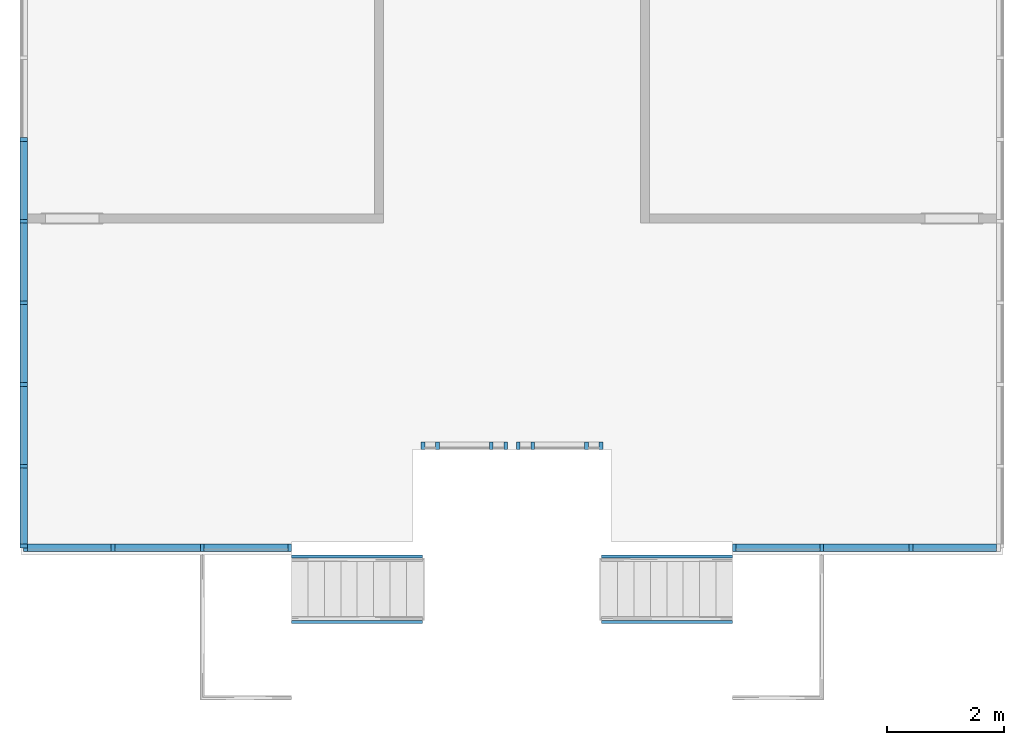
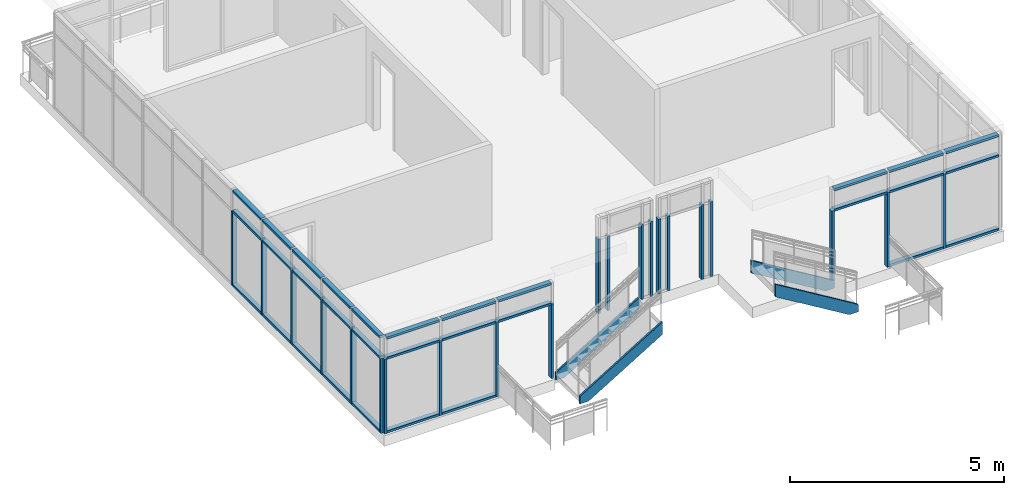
# One storey, part 1 of 11: 56 members, 7 elements without a shape of their own.
"""IFC2X3 building model written with IfcOpenShell, lengths in feet."""

from ifc_helpers import new_model, entity, si_unit, converted_unit, derived_unit, direction, frame, origin, origin_2d_with_axis, place, context, subcontext, project, spatial, polyline, rectangle, outline, extrude, source, transform, mapped, material, type_object, type_shapes, element, aggregate, save


model = new_model("IFC2X3")

# Units and contexts
model_context = context("Model", 3, precision=0.0001, world=origin(), true_north=direction((6.12303176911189e-17, 1.0)))
body_context = subcontext(model_context, "Body", "Model", "MODEL_VIEW")
ifc_project = project(units=[converted_unit("LENGTHUNIT", "FOOT", entity("IfcRatioMeasure", 0.3048), si_unit("LENGTHUNIT", "METRE"), dimensions=[1, 0, 0, 0, 0, 0, 0]), converted_unit("AREAUNIT", "SQUARE FOOT", entity("IfcRatioMeasure", 0.09290304), si_unit("AREAUNIT", "SQUARE_METRE"), dimensions=[2, 0, 0, 0, 0, 0, 0]), converted_unit("VOLUMEUNIT", "CUBIC FOOT", entity("IfcRatioMeasure", 0.028316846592), si_unit("VOLUMEUNIT", "CUBIC_METRE"), dimensions=[3, 0, 0, 0, 0, 0, 0]), converted_unit("PLANEANGLEUNIT", "DEGREE", entity("IfcRatioMeasure", 0.0174532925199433), si_unit("PLANEANGLEUNIT", "RADIAN"), dimensions=[0, 0, 0, 0, 0, 0, 0]), si_unit("MASSUNIT", "GRAM", prefix="KILO"), derived_unit("MASSDENSITYUNIT", [(si_unit("MASSUNIT", "GRAM", prefix="KILO"), 1), (si_unit("LENGTHUNIT", "METRE"), -3)]), si_unit("TIMEUNIT", "SECOND"), si_unit("FREQUENCYUNIT", "HERTZ"), si_unit("THERMODYNAMICTEMPERATUREUNIT", "DEGREE_CELSIUS"), derived_unit("THERMALTRANSMITTANCEUNIT", [(si_unit("MASSUNIT", "GRAM", prefix="KILO"), 1), (si_unit("THERMODYNAMICTEMPERATUREUNIT", "KELVIN"), -1), (si_unit("TIMEUNIT", "SECOND"), -3)]), derived_unit("VOLUMETRICFLOWRATEUNIT", [(si_unit("LENGTHUNIT", "METRE"), 3), (si_unit("TIMEUNIT", "SECOND"), -1)]), si_unit("ELECTRICCURRENTUNIT", "AMPERE"), si_unit("ELECTRICVOLTAGEUNIT", "VOLT"), si_unit("POWERUNIT", "WATT"), si_unit("FORCEUNIT", "NEWTON"), si_unit("ILLUMINANCEUNIT", "LUX"), si_unit("LUMINOUSFLUXUNIT", "LUMEN"), si_unit("LUMINOUSINTENSITYUNIT", "CANDELA"), derived_unit("USERDEFINED", [(si_unit("MASSUNIT", "GRAM", prefix="KILO"), -1), (si_unit("LENGTHUNIT", "METRE"), -2), (si_unit("TIMEUNIT", "SECOND"), 3), (si_unit("LUMINOUSFLUXUNIT", "LUMEN"), 1)]), derived_unit("LINEARVELOCITYUNIT", [(si_unit("LENGTHUNIT", "METRE"), 1), (si_unit("TIMEUNIT", "SECOND"), -1)]), si_unit("PRESSUREUNIT", "PASCAL"), derived_unit("USERDEFINED", [(si_unit("LENGTHUNIT", "METRE"), -2), (si_unit("MASSUNIT", "GRAM", prefix="KILO"), 1), (si_unit("TIMEUNIT", "SECOND"), -2)])], contexts=[model_context])

# Site, building, storey
site_placement = place(None, origin())
site = spatial("IfcSite", under=ifc_project, at=site_placement, Name="Default", CompositionType="ELEMENT")
building_placement = place(site_placement, origin())
building = spatial("IfcBuilding", under=site, at=building_placement, CompositionType="ELEMENT")
storey_placement = place(building_placement, frame((0.0, 0.0, 50.0)))
storey = spatial("IfcBuildingStorey", under=building, at=storey_placement, Name="L 9", CompositionType="ELEMENT", Elevation=49.9999999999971)

# Stair, members
stair_1_placement = place(storey_placement, origin())
stair_1 = element("IfcStair", 1, at=stair_1_placement, inside=storey, Name="Assembled Stair:Stair", ObjectType="Assembled Stair:7\" max riser 11\" tread", ShapeType="NOTDEFINED")
member_type_1 = type_object("IfcMemberType", Name="Stringer:Stringer - 2\" Width", PredefinedType="STRINGER")
member_1_placement = place(stair_1_placement, origin())
member_1 = element("IfcMember", 2, at=member_1_placement, type_object=member_type_1, Name="Assembled Stair:Stair:206083 Stringer 1", ObjectType="Assembled Stair:7\" max riser 11\" tread", context=body_context, shape_type="SweptSolid", body=[
    extrude(outline(polyline([(-3.29811864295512, -0.519028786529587), (5.27689530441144, -0.519028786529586), (4.67083469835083, 0.480971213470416), (-2.99079942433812, 0.480971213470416), (-3.65881193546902, 0.0761151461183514), (-3.29811864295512, -0.519028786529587)])), frame((-43.2356053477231, -7.50364126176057, 1.96146201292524), z_axis=(0.0, 1.0, 0.0), x_axis=(0.855197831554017, 0.0, 0.518301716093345)), (0.0, 0.0, 1.0), 0.166666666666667),
])
member_2_placement = place(stair_1_placement, origin())
member_2 = element("IfcMember", 3, at=member_2_placement, type_object=member_type_1, Name="Assembled Stair:Stair:206083 Stringer 2", ObjectType="Assembled Stair:7\" max riser 11\" tread", context=body_context, shape_type="SweptSolid", body=[
    extrude(outline(polyline([(-3.29811864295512, -0.51902878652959), (5.27689530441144, -0.519028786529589), (4.67083469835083, 0.480971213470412), (-2.99079942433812, 0.480971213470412), (-3.65881193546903, 0.0761151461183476), (-3.29811864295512, -0.51902878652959)])), frame((-43.2356053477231, -11.1703079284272, 1.96146201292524), z_axis=(0.0, 1.0, 0.0), x_axis=(0.855197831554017, 0.0, 0.518301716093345)), (0.0, 0.0, 1.0), 0.166666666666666),
])
aggregate(stair_1, [member_1, member_2])

stair_2_placement = place(storey_placement, origin())
stair_2 = element("IfcStair", 4, at=stair_2_placement, inside=storey, Name="Assembled Stair:Stair", ObjectType="Assembled Stair:7\" max riser 11\" tread", ShapeType="NOTDEFINED")
member_3_placement = place(stair_2_placement, origin())
member_3 = element("IfcMember", 5, at=member_3_placement, type_object=member_type_1, Name="Assembled Stair:Stair:206209 Stringer 1", ObjectType="Assembled Stair:7\" max riser 11\" tread", context=body_context, shape_type="SweptSolid", body=[
    extrude(outline(polyline([(-3.08955742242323, -1.96146201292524), (-2.30843697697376, -1.96146201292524), (4.2437759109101, 2.00957610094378), (4.24377591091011, 3.17889618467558), (-3.08955742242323, -1.26554825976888), (-3.08955742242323, -1.96146201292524)])), frame((-24.7480535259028, -11.1703079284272, 1.96146201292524), z_axis=(0.0, 1.0, 0.0), x_axis=(-1.0, 0.0, 0.0)), (0.0, 0.0, 1.0), 0.166666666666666),
])
member_4_placement = place(stair_2_placement, origin())
member_4 = element("IfcMember", 6, at=member_4_placement, type_object=member_type_1, Name="Assembled Stair:Stair:206209 Stringer 2", ObjectType="Assembled Stair:7\" max riser 11\" tread", context=body_context, shape_type="SweptSolid", body=[
    extrude(outline(polyline([(-3.08955742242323, -1.96146201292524), (-2.30843697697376, -1.96146201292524), (4.2437759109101, 2.00957610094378), (4.24377591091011, 3.17889618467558), (-3.08955742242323, -1.26554825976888), (-3.08955742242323, -1.96146201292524)])), frame((-24.7480535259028, -7.50364126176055, 1.96146201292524), z_axis=(0.0, 1.0, 0.0), x_axis=(-1.0, 0.0, 0.0)), (0.0, 0.0, 1.0), 0.166666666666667),
])
aggregate(stair_2, [member_3, member_4])

# Curtain wall, members
curtain_wall_type = type_object("IfcCurtainWallType", Name="Curtain Wall:Storefront 2", PredefinedType="NOTDEFINED")
curtain_wall_1_placement = place(storey_placement, frame((0.0, 0.0, -50.0)))
curtain_wall_1 = element("IfcCurtainWall", 7, at=curtain_wall_1_placement, inside=storey, type_object=curtain_wall_type, Name="Curtain Wall:Storefront 2", ObjectType="Curtain Wall:Storefront 2")
ifc_material = material(Name="Aluminum")
member_type_2 = type_object("IfcMemberType", Name="2.5\" x 5\" rectangular", PredefinedType="MEMBER")
shared_shape_1 = source(origin(), body_context, "Body", "SweptSolid", [
    extrude(rectangle(XDim=0.416666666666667, YDim=0.208333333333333, at=origin_2d_with_axis()), frame((-0.104166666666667, 0.0, -4.6875), z_axis=(0.0, 0.0, 1.0), x_axis=(0.0, -1.0, 0.0)), (0.0, 0.0, 1.0), 4.6875),
])
type_shapes(member_type_2, [shared_shape_1])
member_5_placement = place(storey_placement, frame((-61.1168294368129, -6.94114126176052, 9.0), z_axis=(-1.0, 0.0, 0.0), x_axis=(0.0, 0.0, 1.0)))
member_5 = element("IfcMember", 8, at=member_5_placement, type_object=member_type_2, material=ifc_material, Name="Rectangular Mullion:2.5\" x 5\" rectangular", ObjectType="2.5\" x 5\" rectangular", context=body_context, shape_type="MappedRepresentation", body=[
    mapped(shared_shape_1, transform((0.0, 0.0, 0.0), scale=1.0)),
])
member_6_placement = place(storey_placement, frame((-51.2209961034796, -6.94114126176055, 9.0), z_axis=(-1.0, 0.0, 0.0), x_axis=(0.0, 0.0, 1.0)))
member_6 = element("IfcMember", 9, at=member_6_placement, type_object=member_type_2, material=ifc_material, Name="Rectangular Mullion:2.5\" x 5\" rectangular", ObjectType="2.5\" x 5\" rectangular", context=body_context, shape_type="MappedRepresentation", body=[
    mapped(shared_shape_1, transform((0.0, 0.0, 0.0), scale=1.0)),
])

curtain_wall_2_placement = place(storey_placement, frame((0.0, 0.0, -50.0)))
curtain_wall_2 = element("IfcCurtainWall", 10, at=curtain_wall_2_placement, inside=storey, type_object=curtain_wall_type, Name="Curtain Wall:Storefront 2", ObjectType="Curtain Wall:Storefront 2")
member_7_placement = place(storey_placement, frame((-21.4501627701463, -6.94114126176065, 9.0), z_axis=(-1.0, 0.0, 0.0), x_axis=(0.0, 0.0, 1.0)))
member_7 = element("IfcMember", 11, at=member_7_placement, type_object=member_type_2, material=ifc_material, Name="Rectangular Mullion:2.5\" x 5\" rectangular", ObjectType="2.5\" x 5\" rectangular", context=body_context, shape_type="MappedRepresentation", body=[
    mapped(shared_shape_1, transform((0.0, 0.0, 0.0), scale=1.0)),
])
member_8_placement = place(storey_placement, frame((-11.5543294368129, -6.94114126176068, 9.0), z_axis=(-1.0, 0.0, 0.0), x_axis=(0.0, 0.0, 1.0)))
member_8 = element("IfcMember", 12, at=member_8_placement, type_object=member_type_2, material=ifc_material, Name="Rectangular Mullion:2.5\" x 5\" rectangular", ObjectType="2.5\" x 5\" rectangular", context=body_context, shape_type="MappedRepresentation", body=[
    mapped(shared_shape_1, transform((0.0, 0.0, 0.0), scale=1.0)),
])

# Member
member_type_3 = type_object("IfcMemberType", Name="2.5\" x 5\" rectangular", PredefinedType="MEMBER")
shared_shape_2 = source(origin(), body_context, "Body", "SweptSolid", [
    extrude(rectangle(XDim=0.416666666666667, YDim=0.208333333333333, at=origin_2d_with_axis()), frame((-0.104166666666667, 0.0, -4.6875), z_axis=(0.0, 0.0, 1.0), x_axis=(0.0, -1.0, 0.0)), (0.0, 0.0, 1.0), 4.6875),
])
type_shapes(member_type_3, [shared_shape_2])
member_9_placement = place(storey_placement, frame((-56.429329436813, -6.94114126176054, 0.0), z_axis=(1.0, 0.0, 0.0), x_axis=(0.0, 0.0, -1.0)))
member_9 = element("IfcMember", 13, at=member_9_placement, type_object=member_type_3, material=ifc_material, Name="Rectangular Mullion:2.5\" x 5\" rectangular", ObjectType="2.5\" x 5\" rectangular", context=body_context, shape_type="MappedRepresentation", body=[
    mapped(shared_shape_2, transform((0.0, 0.0, 0.0), scale=1.0)),
])

member_10_placement = place(storey_placement, frame((-6.86682943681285, -6.94114126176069, 0.0), z_axis=(1.0, 0.0, 0.0), x_axis=(0.0, 0.0, -1.0)))
member_10 = element("IfcMember", 14, at=member_10_placement, type_object=member_type_3, material=ifc_material, Name="Rectangular Mullion:2.5\" x 5\" rectangular", ObjectType="2.5\" x 5\" rectangular", context=body_context, shape_type="MappedRepresentation", body=[
    mapped(shared_shape_2, transform((0.0, 0.0, 0.0), scale=1.0)),
])

member_type_4 = type_object("IfcMemberType", Name="2.5\" x 5\" rectangular", PredefinedType="MEMBER")
shared_shape_3 = source(origin(), body_context, "Body", "SweptSolid", [
    extrude(rectangle(XDim=0.416666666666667, YDim=0.208333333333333, at=origin_2d_with_axis()), frame((0.0, 0.0, -4.6875), z_axis=(0.0, 0.0, 1.0), x_axis=(0.0, -1.0, 0.0)), (0.0, 0.0, 1.0), 4.6875),
])
type_shapes(member_type_4, [shared_shape_3])
member_11_placement = place(storey_placement, frame((-51.2209961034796, -6.94114126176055, 7.0), z_axis=(-1.0, 0.0, 0.0), x_axis=(0.0, 0.0, 1.0)))
member_11 = element("IfcMember", 15, at=member_11_placement, type_object=member_type_4, material=ifc_material, Name="Rectangular Mullion:2.5\" x 5\" rectangular", ObjectType="2.5\" x 5\" rectangular", context=body_context, shape_type="MappedRepresentation", body=[
    mapped(shared_shape_3, transform((0.0, 0.0, 0.0), scale=1.0)),
])

member_12_placement = place(storey_placement, frame((-61.1168294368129, -6.94114126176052, 7.0), z_axis=(-1.0, 0.0, 0.0), x_axis=(0.0, 0.0, 1.0)))
member_12 = element("IfcMember", 16, at=member_12_placement, type_object=member_type_4, material=ifc_material, Name="Rectangular Mullion:2.5\" x 5\" rectangular", ObjectType="2.5\" x 5\" rectangular", context=body_context, shape_type="MappedRepresentation", body=[
    mapped(shared_shape_3, transform((0.0, 0.0, 0.0), scale=1.0)),
])

member_13_placement = place(storey_placement, frame((-11.5543294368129, -6.94114126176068, 7.0), z_axis=(-1.0, 0.0, 0.0), x_axis=(0.0, 0.0, 1.0)))
member_13 = element("IfcMember", 17, at=member_13_placement, type_object=member_type_4, material=ifc_material, Name="Rectangular Mullion:2.5\" x 5\" rectangular", ObjectType="2.5\" x 5\" rectangular", context=body_context, shape_type="MappedRepresentation", body=[
    mapped(shared_shape_3, transform((0.0, 0.0, 0.0), scale=1.0)),
])

member_14_placement = place(storey_placement, frame((-21.4501627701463, -6.94114126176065, 7.0), z_axis=(-1.0, 0.0, 0.0), x_axis=(0.0, 0.0, 1.0)))
member_14 = element("IfcMember", 18, at=member_14_placement, type_object=member_type_4, material=ifc_material, Name="Rectangular Mullion:2.5\" x 5\" rectangular", ObjectType="2.5\" x 5\" rectangular", context=body_context, shape_type="MappedRepresentation", body=[
    mapped(shared_shape_3, transform((0.0, 0.0, 0.0), scale=1.0)),
])

member_type_5 = type_object("IfcMemberType", Name="2.5\" x 5\" rectangular", PredefinedType="MEMBER")
shared_shape_4 = source(origin(), body_context, "Body", "SweptSolid", [
    extrude(rectangle(XDim=0.416666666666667, YDim=0.208333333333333, at=origin_2d_with_axis()), frame((-0.104166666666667, 0.0, -4.79166666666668), z_axis=(0.0, 0.0, 1.0), x_axis=(0.0, -1.0, 0.0)), (0.0, 0.0, 1.0), 4.79166666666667),
])
type_shapes(member_type_5, [shared_shape_4])
member_15_placement = place(storey_placement, frame((-56.2209961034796, -6.94114126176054, 9.0), z_axis=(-1.0, 0.0, 0.0), x_axis=(0.0, 0.0, 1.0)))
member_15 = element("IfcMember", 19, at=member_15_placement, type_object=member_type_5, material=ifc_material, Name="Rectangular Mullion:2.5\" x 5\" rectangular", ObjectType="2.5\" x 5\" rectangular", context=body_context, shape_type="MappedRepresentation", body=[
    mapped(shared_shape_4, transform((0.0, 0.0, 0.0), scale=1.0)),
])

member_16_placement = place(storey_placement, frame((-16.554329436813, -6.94114126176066, 9.0), z_axis=(-1.0, 0.0, 0.0), x_axis=(0.0, 0.0, 1.0)))
member_16 = element("IfcMember", 20, at=member_16_placement, type_object=member_type_5, material=ifc_material, Name="Rectangular Mullion:2.5\" x 5\" rectangular", ObjectType="2.5\" x 5\" rectangular", context=body_context, shape_type="MappedRepresentation", body=[
    mapped(shared_shape_4, transform((0.0, 0.0, 0.0), scale=1.0)),
])

member_type_6 = type_object("IfcMemberType", Name="2.5\" x 5\" rectangular", PredefinedType="MEMBER")
shared_shape_5 = source(origin(), body_context, "Body", "SweptSolid", [
    extrude(rectangle(XDim=0.416666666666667, YDim=0.208333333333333, at=origin_2d_with_axis()), frame((-0.104166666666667, 0.0, -7.0), z_axis=(0.0, 0.0, 1.0), x_axis=(0.0, -1.0, 0.0)), (0.0, 0.0, 1.0), 7.0),
])
type_shapes(member_type_6, [shared_shape_5])
member_17_placement = place(storey_placement, frame((-61.3251627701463, -6.94114126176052, 0.0), z_axis=(0.0, 0.0, -1.0), x_axis=(-1.0, 0.0, 0.0)))
member_17 = element("IfcMember", 21, at=member_17_placement, type_object=member_type_6, material=ifc_material, Name="Rectangular Mullion:2.5\" x 5\" rectangular", ObjectType="2.5\" x 5\" rectangular", context=body_context, shape_type="MappedRepresentation", body=[
    mapped(shared_shape_5, transform((0.0, 0.0, 0.0), scale=1.0)),
])

# Curtain wall, member
curtain_wall_3_placement = place(storey_placement, frame((0.0, 0.0, -50.0)))
curtain_wall_3 = element("IfcCurtainWall", 22, at=curtain_wall_3_placement, inside=storey, type_object=curtain_wall_type, Name="Curtain Wall:Storefront 2", ObjectType="Curtain Wall:Storefront 2")
member_18_placement = place(storey_placement, frame((-39.0751627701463, -1.23280792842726, 0.0), z_axis=(0.0, 0.0, -1.0), x_axis=(-1.0, 0.0, 0.0)))
member_18 = element("IfcMember", 23, at=member_18_placement, type_object=member_type_6, material=ifc_material, Name="Rectangular Mullion:2.5\" x 5\" rectangular", ObjectType="2.5\" x 5\" rectangular", context=body_context, shape_type="MappedRepresentation", body=[
    mapped(shared_shape_5, transform((0.0, 0.0, 0.0), scale=1.0)),
])

curtain_wall_4_placement = place(storey_placement, frame((0.0, 0.0, -50.0)))
curtain_wall_4 = element("IfcCurtainWall", 24, at=curtain_wall_4_placement, inside=storey, type_object=curtain_wall_type, Name="Curtain Wall:Storefront 2", ObjectType="Curtain Wall:Storefront 2")
member_19_placement = place(storey_placement, frame((-33.7418294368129, -1.23280792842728, 0.0), z_axis=(0.0, 0.0, -1.0), x_axis=(-1.0, 0.0, 0.0)))
member_19 = element("IfcMember", 25, at=member_19_placement, type_object=member_type_6, material=ifc_material, Name="Rectangular Mullion:2.5\" x 5\" rectangular", ObjectType="2.5\" x 5\" rectangular", context=body_context, shape_type="MappedRepresentation", body=[
    mapped(shared_shape_5, transform((0.0, 0.0, 0.0), scale=1.0)),
])

# Member
member_type_7 = type_object("IfcMemberType", Name="2.5\" x 5\" rectangular", PredefinedType="MEMBER")
shared_shape_6 = source(origin(), body_context, "Body", "SweptSolid", [
    extrude(rectangle(XDim=0.416666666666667, YDim=0.208333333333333, at=origin_2d_with_axis()), frame((-0.104166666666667, 0.0, -7.0), z_axis=(0.0, 0.0, 1.0), x_axis=(0.0, -1.0, 0.0)), (0.0, 0.0, 1.0), 7.0),
])
type_shapes(member_type_7, [shared_shape_6])
member_20_placement = place(storey_placement, frame((-34.2418294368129, -1.23280792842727, 7.0)))
member_20 = element("IfcMember", 26, at=member_20_placement, type_object=member_type_7, material=ifc_material, Name="Rectangular Mullion:2.5\" x 5\" rectangular", ObjectType="2.5\" x 5\" rectangular", context=body_context, shape_type="MappedRepresentation", body=[
    mapped(shared_shape_6, transform((0.0, 0.0, 0.0), scale=1.0)),
])

member_21_placement = place(storey_placement, frame((-28.9084961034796, -1.23280792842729, 7.0)))
member_21 = element("IfcMember", 27, at=member_21_placement, type_object=member_type_7, material=ifc_material, Name="Rectangular Mullion:2.5\" x 5\" rectangular", ObjectType="2.5\" x 5\" rectangular", context=body_context, shape_type="MappedRepresentation", body=[
    mapped(shared_shape_6, transform((0.0, 0.0, 0.0), scale=1.0)),
])

# Curtain wall, member
curtain_wall_5_placement = place(storey_placement, frame((0.0, 0.0, -50.0)))
curtain_wall_5 = element("IfcCurtainWall", 28, at=curtain_wall_5_placement, inside=storey, type_object=curtain_wall_type, Name="Curtain Wall:Storefront 2", ObjectType="Curtain Wall:Storefront 2")
member_22_placement = place(storey_placement, frame((-61.3251627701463, -6.94114126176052, 7.0), z_axis=(0.0, 0.0, 1.0), x_axis=(0.0, -1.0, 0.0)))
member_22 = element("IfcMember", 29, at=member_22_placement, type_object=member_type_7, material=ifc_material, Name="Rectangular Mullion:2.5\" x 5\" rectangular", ObjectType="2.5\" x 5\" rectangular", context=body_context, shape_type="MappedRepresentation", body=[
    mapped(shared_shape_6, transform((0.0, 0.0, 0.0), scale=1.0)),
])

# Member
member_type_8 = type_object("IfcMemberType", Name="2.5\" x 5\" rectangular", PredefinedType="MEMBER")
shared_shape_7 = source(origin(), body_context, "Body", "SweptSolid", [
    extrude(rectangle(XDim=0.416666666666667, YDim=0.208333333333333, at=origin_2d_with_axis()), frame((0.0, 0.0, -4.79166666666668), z_axis=(0.0, 0.0, 1.0), x_axis=(0.0, -1.0, 0.0)), (0.0, 0.0, 1.0), 4.79166666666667),
])
type_shapes(member_type_8, [shared_shape_7])
member_23_placement = place(storey_placement, frame((-56.2209961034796, -6.94114126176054, 7.0), z_axis=(-1.0, 0.0, 0.0), x_axis=(0.0, 0.0, 1.0)))
member_23 = element("IfcMember", 30, at=member_23_placement, type_object=member_type_8, material=ifc_material, Name="Rectangular Mullion:2.5\" x 5\" rectangular", ObjectType="2.5\" x 5\" rectangular", context=body_context, shape_type="MappedRepresentation", body=[
    mapped(shared_shape_7, transform((0.0, 0.0, 0.0), scale=1.0)),
])

member_24_placement = place(storey_placement, frame((-16.554329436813, -6.94114126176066, 7.0), z_axis=(-1.0, 0.0, 0.0), x_axis=(0.0, 0.0, 1.0)))
member_24 = element("IfcMember", 31, at=member_24_placement, type_object=member_type_8, material=ifc_material, Name="Rectangular Mullion:2.5\" x 5\" rectangular", ObjectType="2.5\" x 5\" rectangular", context=body_context, shape_type="MappedRepresentation", body=[
    mapped(shared_shape_7, transform((0.0, 0.0, 0.0), scale=1.0)),
])

member_type_9 = type_object("IfcMemberType", Name="2.5\" x 5\" rectangular", PredefinedType="MEMBER")
shared_shape_8 = source(origin(), body_context, "Body", "SweptSolid", [
    extrude(rectangle(XDim=0.416666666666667, YDim=0.208333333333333, at=origin_2d_with_axis()), frame((0.0, 0.0, -7.0), z_axis=(0.0, 0.0, 1.0), x_axis=(0.0, -1.0, 0.0)), (0.0, 0.0, 1.0), 7.0),
])
type_shapes(member_type_9, [shared_shape_8])
member_25_placement = place(storey_placement, frame((-51.3251627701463, -6.94114126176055, 0.0), z_axis=(0.0, 0.0, -1.0), x_axis=(-1.0, 0.0, 0.0)))
member_25 = element("IfcMember", 32, at=member_25_placement, type_object=member_type_9, material=ifc_material, Name="Rectangular Mullion:2.5\" x 5\" rectangular", ObjectType="2.5\" x 5\" rectangular", context=body_context, shape_type="MappedRepresentation", body=[
    mapped(shared_shape_8, transform((0.0, 0.0, 0.0), scale=1.0)),
])

member_26_placement = place(storey_placement, frame((-56.3251627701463, -6.94114126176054, 0.0), z_axis=(0.0, 0.0, -1.0), x_axis=(-1.0, 0.0, 0.0)))
member_26 = element("IfcMember", 33, at=member_26_placement, type_object=member_type_9, material=ifc_material, Name="Rectangular Mullion:2.5\" x 5\" rectangular", ObjectType="2.5\" x 5\" rectangular", context=body_context, shape_type="MappedRepresentation", body=[
    mapped(shared_shape_8, transform((0.0, 0.0, 0.0), scale=1.0)),
])

member_27_placement = place(storey_placement, frame((-11.6584961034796, -6.94114126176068, 0.0), z_axis=(0.0, 0.0, -1.0), x_axis=(-1.0, 0.0, 0.0)))
member_27 = element("IfcMember", 34, at=member_27_placement, type_object=member_type_9, material=ifc_material, Name="Rectangular Mullion:2.5\" x 5\" rectangular", ObjectType="2.5\" x 5\" rectangular", context=body_context, shape_type="MappedRepresentation", body=[
    mapped(shared_shape_8, transform((0.0, 0.0, 0.0), scale=1.0)),
])

member_28_placement = place(storey_placement, frame((-16.6584961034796, -6.94114126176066, 0.0), z_axis=(0.0, 0.0, -1.0), x_axis=(-1.0, 0.0, 0.0)))
member_28 = element("IfcMember", 35, at=member_28_placement, type_object=member_type_9, material=ifc_material, Name="Rectangular Mullion:2.5\" x 5\" rectangular", ObjectType="2.5\" x 5\" rectangular", context=body_context, shape_type="MappedRepresentation", body=[
    mapped(shared_shape_8, transform((0.0, 0.0, 0.0), scale=1.0)),
])

member_29_placement = place(storey_placement, frame((-35.1584961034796, -1.23280792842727, 0.0), z_axis=(0.0, 0.0, -1.0), x_axis=(-1.0, 0.0, 0.0)))
member_29 = element("IfcMember", 36, at=member_29_placement, type_object=member_type_9, material=ifc_material, Name="Rectangular Mullion:2.5\" x 5\" rectangular", ObjectType="2.5\" x 5\" rectangular", context=body_context, shape_type="MappedRepresentation", body=[
    mapped(shared_shape_8, transform((0.0, 0.0, 0.0), scale=1.0)),
])

member_30_placement = place(storey_placement, frame((-38.1584961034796, -1.23280792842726, 0.0), z_axis=(0.0, 0.0, -1.0), x_axis=(-1.0, 0.0, 0.0)))
member_30 = element("IfcMember", 37, at=member_30_placement, type_object=member_type_9, material=ifc_material, Name="Rectangular Mullion:2.5\" x 5\" rectangular", ObjectType="2.5\" x 5\" rectangular", context=body_context, shape_type="MappedRepresentation", body=[
    mapped(shared_shape_8, transform((0.0, 0.0, 0.0), scale=1.0)),
])

aggregate(curtain_wall_3, [member_18, member_20, member_29, member_30])

member_31_placement = place(storey_placement, frame((-29.8251627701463, -1.23280792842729, 0.0), z_axis=(0.0, 0.0, -1.0), x_axis=(-1.0, 0.0, 0.0)))
member_31 = element("IfcMember", 38, at=member_31_placement, type_object=member_type_9, material=ifc_material, Name="Rectangular Mullion:2.5\" x 5\" rectangular", ObjectType="2.5\" x 5\" rectangular", context=body_context, shape_type="MappedRepresentation", body=[
    mapped(shared_shape_8, transform((0.0, 0.0, 0.0), scale=1.0)),
])

member_32_placement = place(storey_placement, frame((-32.8251627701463, -1.23280792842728, 0.0), z_axis=(0.0, 0.0, -1.0), x_axis=(-1.0, 0.0, 0.0)))
member_32 = element("IfcMember", 39, at=member_32_placement, type_object=member_type_9, material=ifc_material, Name="Rectangular Mullion:2.5\" x 5\" rectangular", ObjectType="2.5\" x 5\" rectangular", context=body_context, shape_type="MappedRepresentation", body=[
    mapped(shared_shape_8, transform((0.0, 0.0, 0.0), scale=1.0)),
])

aggregate(curtain_wall_4, [member_19, member_21, member_31, member_32])

member_33_placement = place(storey_placement, frame((-61.3251627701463, -2.36917156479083, 0.0), z_axis=(0.0, 0.0, -1.0), x_axis=(0.0, 1.0, 0.0)))
member_33 = element("IfcMember", 40, at=member_33_placement, type_object=member_type_9, material=ifc_material, Name="Rectangular Mullion:2.5\" x 5\" rectangular", ObjectType="2.5\" x 5\" rectangular", context=body_context, shape_type="MappedRepresentation", body=[
    mapped(shared_shape_8, transform((0.0, 0.0, 0.0), scale=1.0)),
])

member_34_placement = place(storey_placement, frame((-61.3251627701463, 2.20279813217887, 0.0), z_axis=(0.0, 0.0, -1.0), x_axis=(0.0, 1.0, 0.0)))
member_34 = element("IfcMember", 41, at=member_34_placement, type_object=member_type_9, material=ifc_material, Name="Rectangular Mullion:2.5\" x 5\" rectangular", ObjectType="2.5\" x 5\" rectangular", context=body_context, shape_type="MappedRepresentation", body=[
    mapped(shared_shape_8, transform((0.0, 0.0, 0.0), scale=1.0)),
])

member_35_placement = place(storey_placement, frame((-61.3251627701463, 6.77476782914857, 0.0), z_axis=(0.0, 0.0, -1.0), x_axis=(0.0, 1.0, 0.0)))
member_35 = element("IfcMember", 42, at=member_35_placement, type_object=member_type_9, material=ifc_material, Name="Rectangular Mullion:2.5\" x 5\" rectangular", ObjectType="2.5\" x 5\" rectangular", context=body_context, shape_type="MappedRepresentation", body=[
    mapped(shared_shape_8, transform((0.0, 0.0, 0.0), scale=1.0)),
])

member_36_placement = place(storey_placement, frame((-61.3251627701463, 11.3467375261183, 0.0), z_axis=(0.0, 0.0, -1.0), x_axis=(0.0, 1.0, 0.0)))
member_36 = element("IfcMember", 43, at=member_36_placement, type_object=member_type_9, material=ifc_material, Name="Rectangular Mullion:2.5\" x 5\" rectangular", ObjectType="2.5\" x 5\" rectangular", context=body_context, shape_type="MappedRepresentation", body=[
    mapped(shared_shape_8, transform((0.0, 0.0, 0.0), scale=1.0)),
])

member_37_placement = place(storey_placement, frame((-61.3251627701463, 15.918707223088, 0.0), z_axis=(0.0, 0.0, -1.0), x_axis=(0.0, 1.0, 0.0)))
member_37 = element("IfcMember", 44, at=member_37_placement, type_object=member_type_9, material=ifc_material, Name="Rectangular Mullion:2.5\" x 5\" rectangular", ObjectType="2.5\" x 5\" rectangular", context=body_context, shape_type="MappedRepresentation", body=[
    mapped(shared_shape_8, transform((0.0, 0.0, 0.0), scale=1.0)),
])

member_type_10 = type_object("IfcMemberType", Name="2.5\" x 5\" rectangular", PredefinedType="MEMBER")
shared_shape_9 = source(origin(), body_context, "Body", "SweptSolid", [
    extrude(rectangle(XDim=0.416666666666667, YDim=0.208333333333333, at=origin_2d_with_axis()), frame((-0.104166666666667, 0.0, -7.0), z_axis=(0.0, 0.0, 1.0), x_axis=(0.0, -1.0, 0.0)), (0.0, 0.0, 1.0), 7.0),
])
type_shapes(member_type_10, [shared_shape_9])
member_38_placement = place(storey_placement, frame((-46.3251627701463, -6.94114126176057, 7.0)))
member_38 = element("IfcMember", 45, at=member_38_placement, type_object=member_type_10, material=ifc_material, Name="Rectangular Mullion:2.5\" x 5\" rectangular", ObjectType="2.5\" x 5\" rectangular", context=body_context, shape_type="MappedRepresentation", body=[
    mapped(shared_shape_9, transform((0.0, 0.0, 0.0), scale=1.0)),
])

member_type_11 = type_object("IfcMemberType", Name="2.5\" x 5\" rectangular", PredefinedType="MEMBER")
shared_shape_10 = source(origin(), body_context, "Body", "SweptSolid", [
    extrude(rectangle(XDim=0.416666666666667, YDim=0.208333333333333, at=origin_2d_with_axis()), frame((-0.104166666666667, 0.0, -4.79166666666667), z_axis=(0.0, 0.0, 1.0), x_axis=(0.0, -1.0, 0.0)), (0.0, 0.0, 1.0), 4.79166666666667),
])
type_shapes(member_type_11, [shared_shape_10])
member_39_placement = place(storey_placement, frame((-51.4293294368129, -6.94114126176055, 0.0), z_axis=(1.0, 0.0, 0.0), x_axis=(0.0, 0.0, -1.0)))
member_39 = element("IfcMember", 46, at=member_39_placement, type_object=member_type_11, material=ifc_material, Name="Rectangular Mullion:2.5\" x 5\" rectangular", ObjectType="2.5\" x 5\" rectangular", context=body_context, shape_type="MappedRepresentation", body=[
    mapped(shared_shape_10, transform((0.0, 0.0, 0.0), scale=1.0)),
])

aggregate(curtain_wall_1, [member_5, member_6, member_15, member_9, member_17, member_38, member_11, member_23, member_12, member_25, member_26, member_39])

member_40_placement = place(storey_placement, frame((-11.7626627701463, -6.94114126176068, 0.0), z_axis=(1.0, 0.0, 0.0), x_axis=(0.0, 0.0, -1.0)))
member_40 = element("IfcMember", 47, at=member_40_placement, type_object=member_type_11, material=ifc_material, Name="Rectangular Mullion:2.5\" x 5\" rectangular", ObjectType="2.5\" x 5\" rectangular", context=body_context, shape_type="MappedRepresentation", body=[
    mapped(shared_shape_10, transform((0.0, 0.0, 0.0), scale=1.0)),
])

member_type_12 = type_object("IfcMemberType", Name="2.5\" x 5\" rectangular", PredefinedType="MEMBER")
shared_shape_11 = source(origin(), body_context, "Body", "SweptSolid", [
    extrude(rectangle(XDim=0.416666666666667, YDim=0.208333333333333, at=origin_2d_with_axis()), frame((-0.104166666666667, 0.0, -7.0), z_axis=(0.0, 0.0, 1.0), x_axis=(0.0, -1.0, 0.0)), (0.0, 0.0, 1.0), 7.0),
])
type_shapes(member_type_12, [shared_shape_11])
member_41_placement = place(storey_placement, frame((-21.6584961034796, -6.94114126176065, 0.0), z_axis=(0.0, 0.0, -1.0), x_axis=(-1.0, 0.0, 0.0)))
member_41 = element("IfcMember", 48, at=member_41_placement, type_object=member_type_12, material=ifc_material, Name="Rectangular Mullion:2.5\" x 5\" rectangular", ObjectType="2.5\" x 5\" rectangular", context=body_context, shape_type="MappedRepresentation", body=[
    mapped(shared_shape_11, transform((0.0, 0.0, 0.0), scale=1.0)),
])

aggregate(curtain_wall_2, [member_7, member_8, member_16, member_10, member_41, member_13, member_24, member_14, member_27, member_28, member_40])

member_type_13 = type_object("IfcMemberType", Name="2.5\" x 5\" rectangular", PredefinedType="MEMBER")
shared_shape_12 = source(origin(), body_context, "Body", "SweptSolid", [
    extrude(rectangle(XDim=0.416666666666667, YDim=0.208333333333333, at=origin_2d_with_axis()), frame((-0.104166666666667, 0.0, -4.25946969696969), z_axis=(0.0, 0.0, 1.0), x_axis=(0.0, -1.0, 0.0)), (0.0, 0.0, 1.0), 4.2594696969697),
])
type_shapes(member_type_13, [shared_shape_12])
member_42_placement = place(storey_placement, frame((-61.3251627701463, -2.47333823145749, 9.0), z_axis=(0.0, 1.0, 0.0), x_axis=(0.0, 0.0, 1.0)))
member_42 = element("IfcMember", 49, at=member_42_placement, type_object=member_type_13, material=ifc_material, Name="Rectangular Mullion:2.5\" x 5\" rectangular", ObjectType="2.5\" x 5\" rectangular", context=body_context, shape_type="MappedRepresentation", body=[
    mapped(shared_shape_12, transform((0.0, 0.0, 0.0), scale=1.0)),
])

member_type_14 = type_object("IfcMemberType", Name="2.5\" x 5\" rectangular", PredefinedType="MEMBER")
shared_shape_13 = source(origin(), body_context, "Body", "SweptSolid", [
    extrude(rectangle(XDim=0.416666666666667, YDim=0.208333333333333, at=origin_2d_with_axis()), frame((-0.104166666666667, 0.0, -4.36363636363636), z_axis=(0.0, 0.0, 1.0), x_axis=(0.0, -1.0, 0.0)), (0.0, 0.0, 1.0), 4.36363636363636),
])
type_shapes(member_type_14, [shared_shape_13])
member_43_placement = place(storey_placement, frame((-61.3251627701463, 2.0986314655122, 9.0), z_axis=(0.0, 1.0, 0.0), x_axis=(0.0, 0.0, 1.0)))
member_43 = element("IfcMember", 50, at=member_43_placement, type_object=member_type_14, material=ifc_material, Name="Rectangular Mullion:2.5\" x 5\" rectangular", ObjectType="2.5\" x 5\" rectangular", context=body_context, shape_type="MappedRepresentation", body=[
    mapped(shared_shape_13, transform((0.0, 0.0, 0.0), scale=1.0)),
])

member_44_placement = place(storey_placement, frame((-61.3251627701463, 6.6706011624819, 9.0), z_axis=(0.0, 1.0, 0.0), x_axis=(0.0, 0.0, 1.0)))
member_44 = element("IfcMember", 51, at=member_44_placement, type_object=member_type_14, material=ifc_material, Name="Rectangular Mullion:2.5\" x 5\" rectangular", ObjectType="2.5\" x 5\" rectangular", context=body_context, shape_type="MappedRepresentation", body=[
    mapped(shared_shape_13, transform((0.0, 0.0, 0.0), scale=1.0)),
])

member_45_placement = place(storey_placement, frame((-61.3251627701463, 11.2425708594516, 9.0), z_axis=(0.0, 1.0, 0.0), x_axis=(0.0, 0.0, 1.0)))
member_45 = element("IfcMember", 52, at=member_45_placement, type_object=member_type_14, material=ifc_material, Name="Rectangular Mullion:2.5\" x 5\" rectangular", ObjectType="2.5\" x 5\" rectangular", context=body_context, shape_type="MappedRepresentation", body=[
    mapped(shared_shape_13, transform((0.0, 0.0, 0.0), scale=1.0)),
])

member_46_placement = place(storey_placement, frame((-61.3251627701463, 15.8145405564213, 9.0), z_axis=(0.0, 1.0, 0.0), x_axis=(0.0, 0.0, 1.0)))
member_46 = element("IfcMember", 53, at=member_46_placement, type_object=member_type_14, material=ifc_material, Name="Rectangular Mullion:2.5\" x 5\" rectangular", ObjectType="2.5\" x 5\" rectangular", context=body_context, shape_type="MappedRepresentation", body=[
    mapped(shared_shape_13, transform((0.0, 0.0, 0.0), scale=1.0)),
])

member_type_15 = type_object("IfcMemberType", Name="2.5\" x 5\" rectangular", PredefinedType="MEMBER")
shared_shape_14 = source(origin(), body_context, "Body", "SweptSolid", [
    extrude(rectangle(XDim=0.416666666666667, YDim=0.208333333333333, at=origin_2d_with_axis()), frame((-0.104166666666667, 0.0, -4.25946969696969), z_axis=(0.0, 0.0, 1.0), x_axis=(0.0, -1.0, 0.0)), (0.0, 0.0, 1.0), 4.25946969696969),
])
type_shapes(member_type_15, [shared_shape_14])
member_47_placement = place(storey_placement, frame((-61.3251627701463, -6.73280792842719, 0.0), z_axis=(0.0, -1.0, 0.0), x_axis=(0.0, 0.0, -1.0)))
member_47 = element("IfcMember", 54, at=member_47_placement, type_object=member_type_15, material=ifc_material, Name="Rectangular Mullion:2.5\" x 5\" rectangular", ObjectType="2.5\" x 5\" rectangular", context=body_context, shape_type="MappedRepresentation", body=[
    mapped(shared_shape_14, transform((0.0, 0.0, 0.0), scale=1.0)),
])

member_type_16 = type_object("IfcMemberType", Name="2.5\" x 5\" rectangular", PredefinedType="MEMBER")
shared_shape_15 = source(origin(), body_context, "Body", "SweptSolid", [
    extrude(rectangle(XDim=0.416666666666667, YDim=0.208333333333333, at=origin_2d_with_axis()), frame((-0.104166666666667, 0.0, -4.36363636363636), z_axis=(0.0, 0.0, 1.0), x_axis=(0.0, -1.0, 0.0)), (0.0, 0.0, 1.0), 4.36363636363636),
])
type_shapes(member_type_16, [shared_shape_15])
member_48_placement = place(storey_placement, frame((-61.3251627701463, -2.26500489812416, 0.0), z_axis=(0.0, -1.0, 0.0), x_axis=(0.0, 0.0, -1.0)))
member_48 = element("IfcMember", 55, at=member_48_placement, type_object=member_type_16, material=ifc_material, Name="Rectangular Mullion:2.5\" x 5\" rectangular", ObjectType="2.5\" x 5\" rectangular", context=body_context, shape_type="MappedRepresentation", body=[
    mapped(shared_shape_15, transform((0.0, 0.0, 0.0), scale=1.0)),
])

member_49_placement = place(storey_placement, frame((-61.3251627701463, 2.30696479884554, 0.0), z_axis=(0.0, -1.0, 0.0), x_axis=(0.0, 0.0, -1.0)))
member_49 = element("IfcMember", 56, at=member_49_placement, type_object=member_type_16, material=ifc_material, Name="Rectangular Mullion:2.5\" x 5\" rectangular", ObjectType="2.5\" x 5\" rectangular", context=body_context, shape_type="MappedRepresentation", body=[
    mapped(shared_shape_15, transform((0.0, 0.0, 0.0), scale=1.0)),
])

member_50_placement = place(storey_placement, frame((-61.3251627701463, 6.87893449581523, 0.0), z_axis=(0.0, -1.0, 0.0), x_axis=(0.0, 0.0, -1.0)))
member_50 = element("IfcMember", 57, at=member_50_placement, type_object=member_type_16, material=ifc_material, Name="Rectangular Mullion:2.5\" x 5\" rectangular", ObjectType="2.5\" x 5\" rectangular", context=body_context, shape_type="MappedRepresentation", body=[
    mapped(shared_shape_15, transform((0.0, 0.0, 0.0), scale=1.0)),
])

member_51_placement = place(storey_placement, frame((-61.3251627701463, 11.4509041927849, 0.0), z_axis=(0.0, -1.0, 0.0), x_axis=(0.0, 0.0, -1.0)))
member_51 = element("IfcMember", 58, at=member_51_placement, type_object=member_type_16, material=ifc_material, Name="Rectangular Mullion:2.5\" x 5\" rectangular", ObjectType="2.5\" x 5\" rectangular", context=body_context, shape_type="MappedRepresentation", body=[
    mapped(shared_shape_15, transform((0.0, 0.0, 0.0), scale=1.0)),
])

member_type_17 = type_object("IfcMemberType", Name="2.5\" x 5\" rectangular", PredefinedType="MEMBER")
shared_shape_16 = source(origin(), body_context, "Body", "SweptSolid", [
    extrude(rectangle(XDim=0.416666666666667, YDim=0.208333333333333, at=origin_2d_with_axis()), frame((0.0, 0.0, -4.2594696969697), z_axis=(0.0, 0.0, 1.0), x_axis=(0.0, -1.0, 0.0)), (0.0, 0.0, 1.0), 4.2594696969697),
])
type_shapes(member_type_17, [shared_shape_16])
member_52_placement = place(storey_placement, frame((-61.3251627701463, -2.47333823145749, 7.0), z_axis=(0.0, 1.0, 0.0), x_axis=(0.0, 0.0, 1.0)))
member_52 = element("IfcMember", 59, at=member_52_placement, type_object=member_type_17, material=ifc_material, Name="Rectangular Mullion:2.5\" x 5\" rectangular", ObjectType="2.5\" x 5\" rectangular", context=body_context, shape_type="MappedRepresentation", body=[
    mapped(shared_shape_16, transform((0.0, 0.0, 0.0), scale=1.0)),
])

member_type_18 = type_object("IfcMemberType", Name="2.5\" x 5\" rectangular", PredefinedType="MEMBER")
shared_shape_17 = source(origin(), body_context, "Body", "SweptSolid", [
    extrude(rectangle(XDim=0.416666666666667, YDim=0.208333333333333, at=origin_2d_with_axis()), frame((0.0, 0.0, -4.36363636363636), z_axis=(0.0, 0.0, 1.0), x_axis=(0.0, -1.0, 0.0)), (0.0, 0.0, 1.0), 4.36363636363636),
])
type_shapes(member_type_18, [shared_shape_17])
member_53_placement = place(storey_placement, frame((-61.3251627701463, 2.0986314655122, 7.0), z_axis=(0.0, 1.0, 0.0), x_axis=(0.0, 0.0, 1.0)))
member_53 = element("IfcMember", 60, at=member_53_placement, type_object=member_type_18, material=ifc_material, Name="Rectangular Mullion:2.5\" x 5\" rectangular", ObjectType="2.5\" x 5\" rectangular", context=body_context, shape_type="MappedRepresentation", body=[
    mapped(shared_shape_17, transform((0.0, 0.0, 0.0), scale=1.0)),
])

member_54_placement = place(storey_placement, frame((-61.3251627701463, 6.6706011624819, 7.0), z_axis=(0.0, 1.0, 0.0), x_axis=(0.0, 0.0, 1.0)))
member_54 = element("IfcMember", 61, at=member_54_placement, type_object=member_type_18, material=ifc_material, Name="Rectangular Mullion:2.5\" x 5\" rectangular", ObjectType="2.5\" x 5\" rectangular", context=body_context, shape_type="MappedRepresentation", body=[
    mapped(shared_shape_17, transform((0.0, 0.0, 0.0), scale=1.0)),
])

member_55_placement = place(storey_placement, frame((-61.3251627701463, 11.2425708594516, 7.0), z_axis=(0.0, 1.0, 0.0), x_axis=(0.0, 0.0, 1.0)))
member_55 = element("IfcMember", 62, at=member_55_placement, type_object=member_type_18, material=ifc_material, Name="Rectangular Mullion:2.5\" x 5\" rectangular", ObjectType="2.5\" x 5\" rectangular", context=body_context, shape_type="MappedRepresentation", body=[
    mapped(shared_shape_17, transform((0.0, 0.0, 0.0), scale=1.0)),
])

member_56_placement = place(storey_placement, frame((-61.3251627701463, 15.8145405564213, 7.0), z_axis=(0.0, 1.0, 0.0), x_axis=(0.0, 0.0, 1.0)))
member_56 = element("IfcMember", 63, at=member_56_placement, type_object=member_type_18, material=ifc_material, Name="Rectangular Mullion:2.5\" x 5\" rectangular", ObjectType="2.5\" x 5\" rectangular", context=body_context, shape_type="MappedRepresentation", body=[
    mapped(shared_shape_17, transform((0.0, 0.0, 0.0), scale=1.0)),
])

aggregate(curtain_wall_5, [member_42, member_43, member_44, member_45, member_46, member_47, member_48, member_49, member_50, member_51, member_22, member_52, member_53, member_54, member_55, member_56, member_33, member_34, member_35, member_36, member_37])

save(model, "model.ifc")
